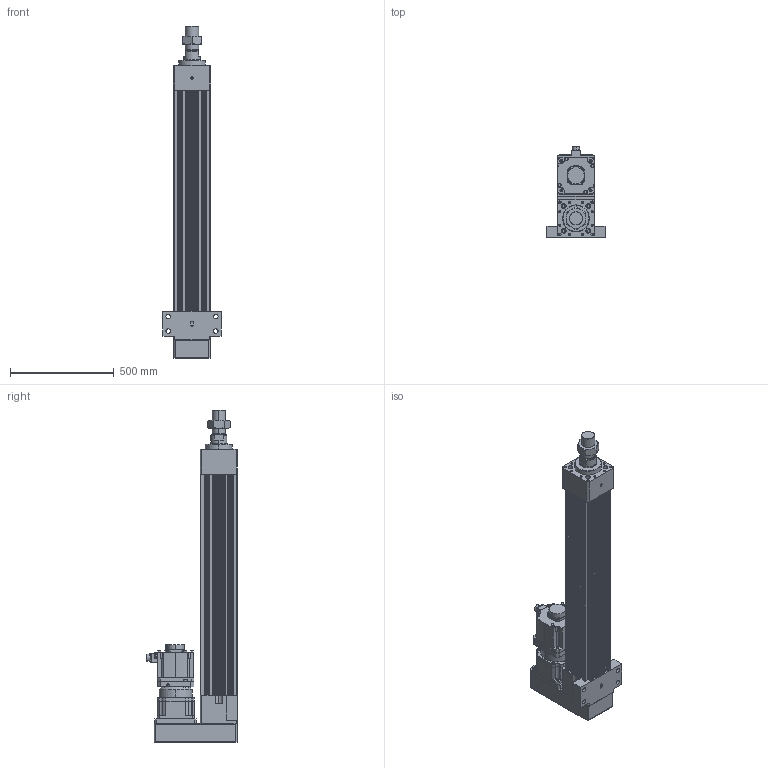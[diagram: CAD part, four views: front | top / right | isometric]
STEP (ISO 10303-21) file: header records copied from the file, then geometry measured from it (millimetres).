
FILE_DESCRIPTION (( 'STEP AP203' ), '1' );
FILE_NAME ('HES180HS-P750-W050G00-M-FFC.STEP', '2023-02-01T07:34:05', ( 'tms' ), ( '' ), 'SwSTEP 2.0', 'SolidWorks 2013', '' );
FILE_SCHEMA (( 'CONFIG_CONTROL_DESIGN' ));
Length unit declared in the file: millimetre
Products named in the file (9): HG-SR502; AB1801; HES180-P750-G180-FFC; AB180-003[HG-SR702B]; P0403600401; HES180 ROD M ST750; M64X2.0P; P1301600001; HES180HS-P750-W050G00-M-FFC
Assembly tree (8 placements, depth 3):
  HES180HS-P750-W050G00-M-FFC
    HES180-P750-G180-FFC
    HES180 ROD M ST750
    M64X2.0P
    AB180-003[HG-SR702B]
      AB1801
      P1301600001
      P0403600401
    HG-SR502
Bounding box: 280 x 438.85 x 1602 mm (x, y, z)
Volume: 33491551.3 mm3; surface area: 3025909.2 mm2
Topology: 4 solids, 19 shells, 1474 faces, 3821 edges, 2463 vertices
Faces by surface type: cylinder 686, plane 553, cone 168, bspline 63, torus 4
Entity records: 53682 total; most frequent: CARTESIAN_POINT 16162, DIRECTION 7905, ORIENTED_EDGE 7498, EDGE_CURVE 3773, AXIS2_PLACEMENT_3D 2986, VERTEX_POINT 2463, LINE 1933, VECTOR 1933
